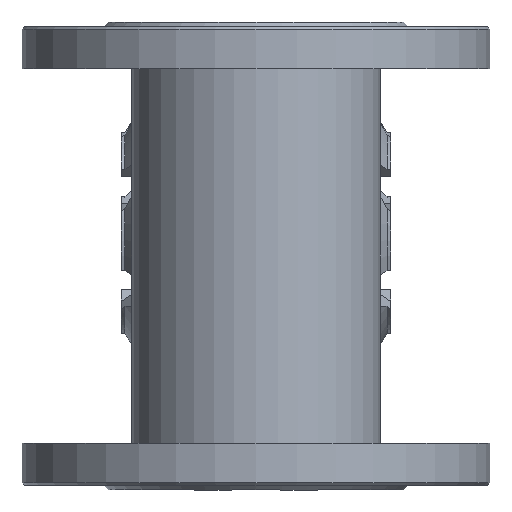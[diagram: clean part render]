
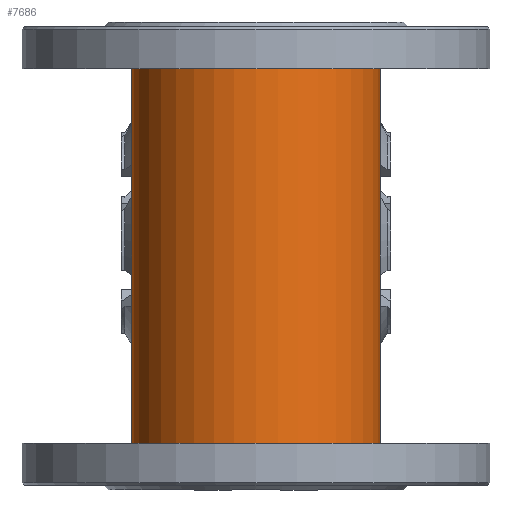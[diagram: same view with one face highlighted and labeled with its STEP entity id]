
A CAD part, front view. The second image highlights one B-rep face of the part: STEP entity #7686.
In plain terms, the highlighted cylindrical face has radius 53 mm (diameter 106 mm), a full revolution.
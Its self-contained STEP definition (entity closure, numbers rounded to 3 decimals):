
#774=CIRCLE('',#27502,53.);
#775=CIRCLE('',#27504,53.);
#3117=LINE('',#45162,#5918);
#3118=LINE('',#45176,#5919);
#5918=VECTOR('',#32457,1.);
#5919=VECTOR('',#32458,1.);
#6058=CYLINDRICAL_SURFACE('',#27505,53.);
#6302=FACE_BOUND('',#11230,.T.);
#6303=FACE_BOUND('',#11231,.T.);
#6304=FACE_BOUND('',#11232,.T.);
#7686=ADVANCED_FACE('',(#6302,#6303,#6304),#6058,.T.);
#11230=EDGE_LOOP('',(#18461));
#11231=EDGE_LOOP('',(#18462,#18463,#18464,#18465));
#11232=EDGE_LOOP('',(#18466));
#18461=ORIENTED_EDGE('',*,*,#24759,.F.);
#18462=ORIENTED_EDGE('',*,*,#24760,.F.);
#18463=ORIENTED_EDGE('',*,*,#24761,.T.);
#18464=ORIENTED_EDGE('',*,*,#24762,.F.);
#18465=ORIENTED_EDGE('',*,*,#24763,.T.);
#18466=ORIENTED_EDGE('',*,*,#24758,.F.);
#21107=VERTEX_POINT('',#45158);
#21108=VERTEX_POINT('',#45161);
#21109=VERTEX_POINT('',#45163);
#21110=VERTEX_POINT('',#45164);
#21111=VERTEX_POINT('',#45175);
#21112=VERTEX_POINT('',#45177);
#24758=EDGE_CURVE('',#21107,#21107,#774,.T.);
#24759=EDGE_CURVE('',#21108,#21108,#775,.T.);
#24760=EDGE_CURVE('',#21109,#21110,#3117,.T.);
#24761=EDGE_CURVE('',#21109,#21111,#26460,.T.);
#24762=EDGE_CURVE('',#21112,#21111,#3118,.T.);
#24763=EDGE_CURVE('',#21112,#21110,#26461,.T.);
#26460=B_SPLINE_CURVE_WITH_KNOTS('',3,(#45165,#45166,#45167,#45168,#45169,
#45170,#45171,#45172,#45173,#45174),.UNSPECIFIED.,.F.,.F.,(4,2,2,2,4),(0.,
0.25,0.5,0.75,1.),.UNSPECIFIED.);
#26461=B_SPLINE_CURVE_WITH_KNOTS('',3,(#45178,#45179,#45180,#45181,#45182,
#45183,#45184,#45185,#45186,#45187),.UNSPECIFIED.,.F.,.F.,(4,2,2,2,4),(0.,
0.25,0.5,0.75,1.),.UNSPECIFIED.);
#27502=AXIS2_PLACEMENT_3D('',#45157,#32451,#32452);
#27504=AXIS2_PLACEMENT_3D('',#45160,#32455,#32456);
#27505=AXIS2_PLACEMENT_3D('',#45188,#32459,#32460);
#32451=DIRECTION('',(0.,0.,1.));
#32452=DIRECTION('',(0.,-1.,0.));
#32455=DIRECTION('',(0.,0.,-1.));
#32456=DIRECTION('',(0.,-1.,0.));
#32457=DIRECTION('',(0.,0.,-1.));
#32458=DIRECTION('',(0.,0.,1.));
#32459=DIRECTION('',(0.,0.,-1.));
#32460=DIRECTION('',(0.,-1.,0.));
#45157=CARTESIAN_POINT('',(0.,-42.,70.242));
#45158=CARTESIAN_POINT('',(0.,-95.,70.242));
#45160=CARTESIAN_POINT('',(0.,-42.,-89.758));
#45161=CARTESIAN_POINT('',(0.,-95.,-89.758));
#45162=CARTESIAN_POINT('',(14.422,9.,0.001));
#45163=CARTESIAN_POINT('',(14.422,9.,5.861));
#45164=CARTESIAN_POINT('',(14.422,9.,-5.859));
#45165=CARTESIAN_POINT('',(14.422,9.,5.861));
#45166=CARTESIAN_POINT('',(13.232,9.337,8.699));
#45167=CARTESIAN_POINT('',(11.197,9.868,11.104));
#45168=CARTESIAN_POINT('',(6.117,10.709,14.439));
#45169=CARTESIAN_POINT('',(3.092,11.,15.352));
#45170=CARTESIAN_POINT('',(-3.081,11.,15.353));
#45171=CARTESIAN_POINT('',(-6.121,10.708,14.437));
#45172=CARTESIAN_POINT('',(-11.194,9.868,11.108));
#45173=CARTESIAN_POINT('',(-13.23,9.337,8.698));
#45174=CARTESIAN_POINT('',(-14.422,9.,5.86));
#45175=CARTESIAN_POINT('',(-14.422,9.,5.86));
#45176=CARTESIAN_POINT('',(-14.422,9.,-916.158));
#45177=CARTESIAN_POINT('',(-14.422,9.,-5.859));
#45178=CARTESIAN_POINT('',(-14.422,9.,-5.859));
#45179=CARTESIAN_POINT('',(-13.229,9.337,-8.697));
#45180=CARTESIAN_POINT('',(-11.197,9.868,-11.106));
#45181=CARTESIAN_POINT('',(-6.117,10.709,-14.44));
#45182=CARTESIAN_POINT('',(-3.091,11.,-15.351));
#45183=CARTESIAN_POINT('',(3.083,11.,-15.355));
#45184=CARTESIAN_POINT('',(6.122,10.708,-14.436));
#45185=CARTESIAN_POINT('',(11.196,9.868,-11.107));
#45186=CARTESIAN_POINT('',(13.23,9.337,-8.697));
#45187=CARTESIAN_POINT('',(14.422,9.,-5.859));
#45188=CARTESIAN_POINT('',(0.,-42.,-916.158));
